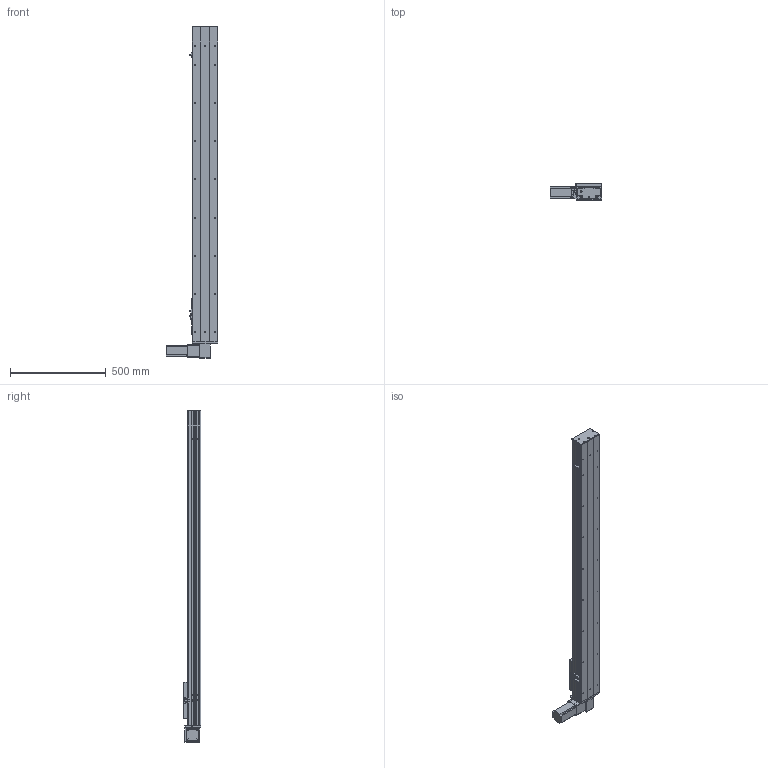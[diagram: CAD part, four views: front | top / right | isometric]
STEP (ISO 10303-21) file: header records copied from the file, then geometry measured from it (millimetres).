
FILE_DESCRIPTION (( 'STEP AP203' ), '1' );
FILE_NAME ('Y135CB-D90-S1350-BD-P400W.STEP', '2020-02-19T03:40:20', ( '微软用户' ), ( '微软中国' ), 'SwSTEP 2.0', 'SolidWorks 2017', '' );
FILE_SCHEMA (( 'CONFIG_CONTROL_DESIGN' ));
Length unit declared in the file: millimetre
Products named in the file (16): C-雄赽釱--; 0B-埴倛裔啣; Y10B--々湍喘謫眊--666; 0B-源倛裔啣; 0B-薊粣ん眊; san松下电机400不带刹车----; Y135CB-D90-S1350-BD-P400W; 5CB --掛极耜裔啣-; C-詩湍揤踡え-陔; 135CB--詩湍-CE; Y135CB-耜裔; Y100-135俋离換覜ん--; 135CB---遴掛极.-; Y135C-陔俋离換覜結え-; 5C--俋欶; 35CB---喘謫眊楊擘啣
Assembly tree (19 placements, depth 2):
  Y135CB-D90-S1350-BD-P400W
    Y135CB-耜裔
    135CB---遴掛极.-
    35CB---喘謫眊楊擘啣
    0B-埴倛裔啣
    0B-源倛裔啣
    san松下电机400不带刹车----
    5CB --掛极耜裔啣-  x2
    C-詩湍揤踡え-陔  x2
    135CB--詩湍-CE
    Y100-135俋离換覜ん--  x3
    Y135C-陔俋离換覜結え-
    5C--俋欶
    C-雄赽釱--
    Y10B--々湍喘謫眊--666
    0B-薊粣ん眊
Bounding box: 272 x 91 x 1738 mm (x, y, z)
Volume: 5295654.4 mm3; surface area: 2037406.1 mm2
Topology: 19 solids, 19 shells, 863 faces, 2302 edges, 1524 vertices
Faces by surface type: cylinder 432, plane 415, cone 16
Entity records: 26410 total; most frequent: DIRECTION 4402, CARTESIAN_POINT 4335, ORIENTED_EDGE 4080, EDGE_CURVE 2040, AXIS2_PLACEMENT_3D 1615, VERTEX_POINT 1352, VECTOR 1172, LINE 1172
